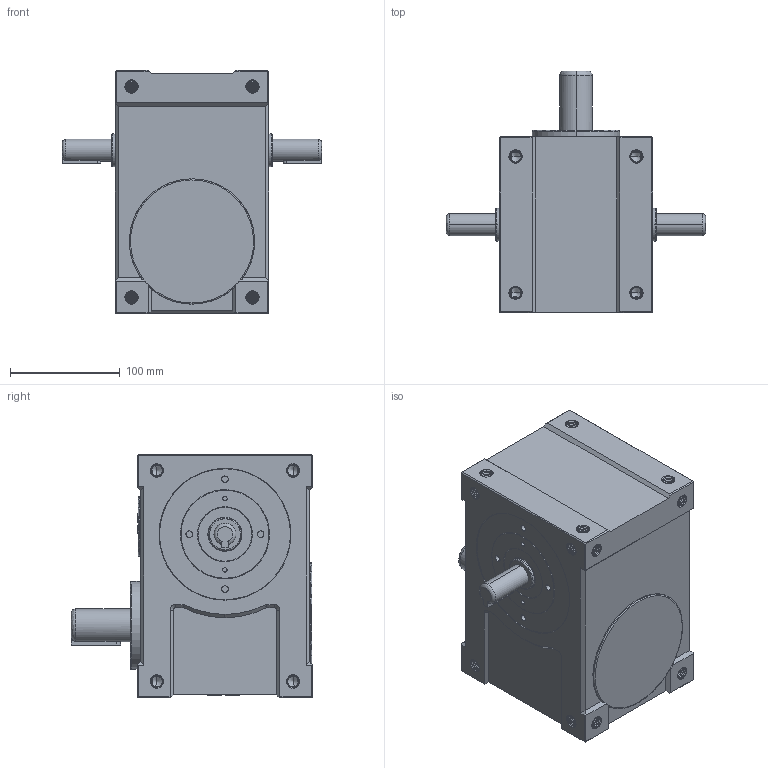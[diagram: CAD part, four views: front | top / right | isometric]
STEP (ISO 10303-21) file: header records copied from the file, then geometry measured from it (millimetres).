
FILE_DESCRIPTION (( 'STEP AP214' ), '1' );
FILE_NAME ('ER-RU83DS英锐凸轮分割器3D标准图纸(电话15062628977)AA.STEP', '2022-10-29T06:28:53', ( '微软用户' ), ( '微软中国' ), 'SwSTEP 2.0', 'SolidWorks 2017', '' );
FILE_SCHEMA (( 'AUTOMOTIVE_DESIGN' ));
Length unit declared in the file: millimetre
Products named in the file (1): ER-RU83DS英锐凸轮分割器3D标准图纸(电话15062628977)AA
Bounding box: 236 x 220 x 222 mm (x, y, z)
Volume: 4786318.1 mm3; surface area: 213162 mm2
Topology: 3 solids, 3 shells, 2094 faces, 5781 edges, 3767 vertices
Faces by surface type: bspline 852, cylinder 661, plane 425, cone 156
Entity records: 371997 total; most frequent: CARTESIAN_POINT 329631, ORIENTED_EDGE 11494, EDGE_CURVE 5747, DIRECTION 4587, VERTEX_POINT 3767, B_SPLINE_CURVE_WITH_KNOTS 3171, EDGE_LOOP 2234, FACE_OUTER_BOUND 2094
